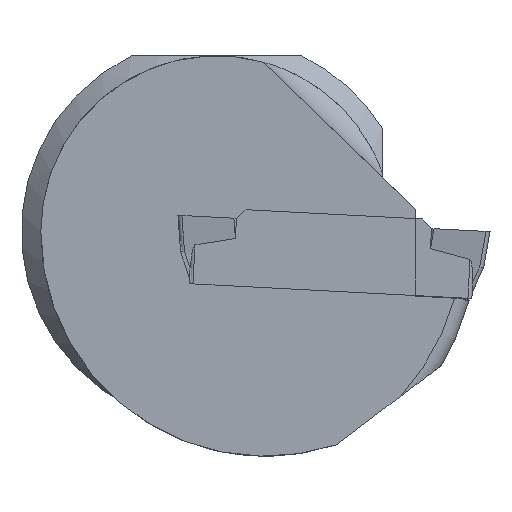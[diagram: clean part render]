
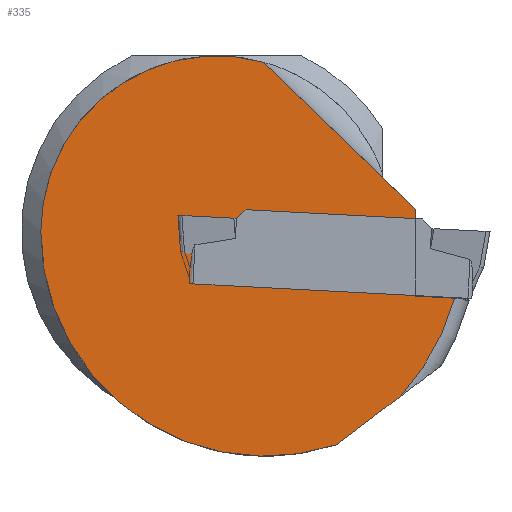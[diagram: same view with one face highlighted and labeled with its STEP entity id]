
A CAD part, left-side view. The second image highlights one B-rep face of the part: STEP entity #335.
In plain terms, the highlighted planar face has unit normal (-1, 0, 0).
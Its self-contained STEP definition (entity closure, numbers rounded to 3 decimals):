
#263=CIRCLE('',#1335,11.5);
#277=CIRCLE('',#1362,12.65);
#279=CIRCLE('',#1366,9.);
#335=ADVANCED_FACE('',(#426),#369,.F.);
#369=PLANE('',#1367);
#426=FACE_OUTER_BOUND('',#484,.T.);
#484=EDGE_LOOP('',(#766,#767,#768,#769,#770,#771,#772));
#766=ORIENTED_EDGE('',*,*,#1004,.T.);
#767=ORIENTED_EDGE('',*,*,#993,.T.);
#768=ORIENTED_EDGE('',*,*,#1000,.T.);
#769=ORIENTED_EDGE('',*,*,#1046,.T.);
#770=ORIENTED_EDGE('',*,*,#1009,.T.);
#771=ORIENTED_EDGE('',*,*,#988,.T.);
#772=ORIENTED_EDGE('',*,*,#1043,.T.);
#856=VERTEX_POINT('',#1893);
#857=VERTEX_POINT('',#1895);
#861=VERTEX_POINT('',#1904);
#862=VERTEX_POINT('',#1906);
#867=VERTEX_POINT('',#1918);
#870=VERTEX_POINT('',#1951);
#873=VERTEX_POINT('',#1967);
#988=EDGE_CURVE('',#857,#856,#1113,.T.);
#993=EDGE_CURVE('',#862,#861,#1118,.T.);
#1000=EDGE_CURVE('',#861,#867,#1125,.T.);
#1004=EDGE_CURVE('',#870,#862,#1127,.T.);
#1009=EDGE_CURVE('',#873,#857,#263,.T.);
#1043=EDGE_CURVE('',#856,#870,#277,.T.);
#1046=EDGE_CURVE('',#867,#873,#279,.T.);
#1113=LINE('',#1894,#1204);
#1118=LINE('',#1905,#1209);
#1125=LINE('',#1919,#1216);
#1127=LINE('',#1950,#1218);
#1204=VECTOR('',#1554,1.);
#1209=VECTOR('',#1561,1.);
#1216=VECTOR('',#1570,1.);
#1218=VECTOR('',#1578,1.);
#1335=AXIS2_PLACEMENT_3D('',#1966,#1586,#1587);
#1362=AXIS2_PLACEMENT_3D('',#2086,#1648,#1649);
#1366=AXIS2_PLACEMENT_3D('',#2092,#1657,#1658);
#1367=AXIS2_PLACEMENT_3D('',#2093,#1659,#1660);
#1554=DIRECTION('',(0.,-0.799,0.602));
#1561=DIRECTION('',(0.,0.,1.));
#1570=DIRECTION('',(0.,0.719,0.695));
#1578=DIRECTION('',(0.,0.999,0.052));
#1586=DIRECTION('',(-1.,0.,0.));
#1587=DIRECTION('',(0.,0.,-1.));
#1648=DIRECTION('',(-1.,0.,0.));
#1649=DIRECTION('',(0.,0.,-1.));
#1657=DIRECTION('',(-1.,0.,0.));
#1658=DIRECTION('',(0.,0.,-1.));
#1659=DIRECTION('',(1.,0.,0.));
#1660=DIRECTION('',(0.,0.,-1.));
#1893=CARTESIAN_POINT('',(0.25,4.548,-8.407));
#1894=CARTESIAN_POINT('',(0.25,3.347,-7.502));
#1895=CARTESIAN_POINT('',(0.25,7.873,-10.913));
#1904=CARTESIAN_POINT('',(0.25,3.8,1.14));
#1905=CARTESIAN_POINT('',(0.25,3.8,0.24));
#1906=CARTESIAN_POINT('',(0.25,3.8,-3.304));
#1918=CARTESIAN_POINT('',(0.25,11.602,8.675));
#1919=CARTESIAN_POINT('',(0.25,3.8,1.14));
#1950=CARTESIAN_POINT('',(0.25,9.158,-3.023));
#1951=CARTESIAN_POINT('',(0.25,1.818,-3.408));
#1966=CARTESIAN_POINT('',(0.25,11.5,0.));
#1967=CARTESIAN_POINT('',(0.25,23.,0.));
#2086=CARTESIAN_POINT('',(0.25,14.,0.));
#2092=CARTESIAN_POINT('',(0.25,14.,0.));
#2093=CARTESIAN_POINT('',(0.25,9.,0.));
